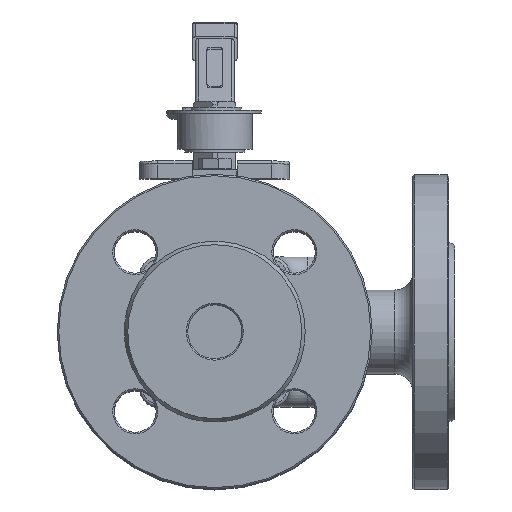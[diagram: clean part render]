
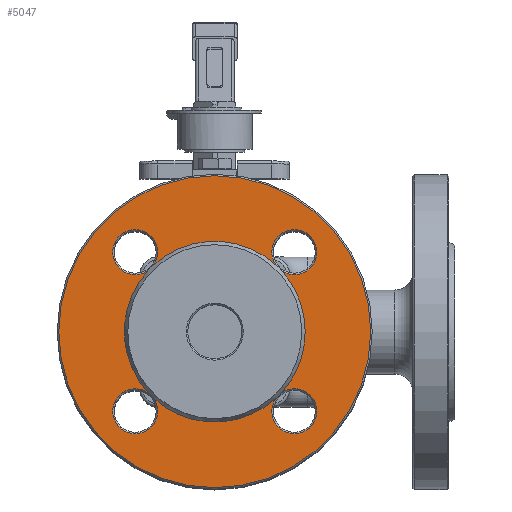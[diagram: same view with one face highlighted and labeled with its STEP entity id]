
A CAD part, top view. The second image highlights one B-rep face of the part: STEP entity #5047.
In plain terms, the highlighted planar face has unit normal (0, 0, 1).
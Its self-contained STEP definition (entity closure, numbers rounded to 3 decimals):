
#5047=ADVANCED_FACE('',(#14047,#14049),#14051,.T.);
#14047=FACE_BOUND('',#14048,.T.);
#14048=EDGE_LOOP('',(#18622));
#14049=FACE_BOUND('',#14050,.T.);
#14050=EDGE_LOOP('',(#18623,#18624,#18625,#18626,#18627,#18628,#18629,#18630,#18631,
#18632,#18633,#18634,#18635));
#14051=PLANE('',#14052);
#14052=AXIS2_PLACEMENT_3D('',#14053,#14054,#14055);
#14053=CARTESIAN_POINT('',(0.,0.,78.));
#14054=DIRECTION('',(0.,0.,1.));
#14055=DIRECTION('',(1.,0.,0.));
#18622=ORIENTED_EDGE('',*,*,#21252,.F.);
#18623=ORIENTED_EDGE('',*,*,#21223,.F.);
#18624=ORIENTED_EDGE('',*,*,#21256,.F.);
#18625=ORIENTED_EDGE('',*,*,#21212,.F.);
#18626=ORIENTED_EDGE('',*,*,#21214,.F.);
#18627=ORIENTED_EDGE('',*,*,#21255,.F.);
#18628=ORIENTED_EDGE('',*,*,#21215,.F.);
#18629=ORIENTED_EDGE('',*,*,#21217,.F.);
#18630=ORIENTED_EDGE('',*,*,#21254,.F.);
#18631=ORIENTED_EDGE('',*,*,#21218,.F.);
#18632=ORIENTED_EDGE('',*,*,#21220,.F.);
#18633=ORIENTED_EDGE('',*,*,#21253,.F.);
#18634=ORIENTED_EDGE('',*,*,#21257,.F.);
#18635=ORIENTED_EDGE('',*,*,#21221,.F.);
#21212=EDGE_CURVE('',#24747,#24748,#24749,.T.);
#21214=EDGE_CURVE('',#24750,#24747,#24752,.T.);
#21215=EDGE_CURVE('',#24753,#24754,#24755,.T.);
#21217=EDGE_CURVE('',#24756,#24753,#24758,.T.);
#21218=EDGE_CURVE('',#24759,#24760,#24761,.T.);
#21220=EDGE_CURVE('',#24762,#24759,#24764,.T.);
#21221=EDGE_CURVE('',#24765,#24766,#24767,.T.);
#21223=EDGE_CURVE('',#24768,#24765,#24770,.T.);
#21252=EDGE_CURVE('',#24827,#24827,#24828,.T.);
#21253=EDGE_CURVE('',#24829,#24762,#24830,.T.);
#21254=EDGE_CURVE('',#24760,#24756,#24831,.T.);
#21255=EDGE_CURVE('',#24754,#24750,#24832,.T.);
#21256=EDGE_CURVE('',#24748,#24768,#24833,.T.);
#21257=EDGE_CURVE('',#24766,#24829,#24834,.T.);
#24747=VERTEX_POINT('',#43845);
#24748=VERTEX_POINT('',#43846);
#24749=CIRCLE('',#43847,7.5);
#24750=VERTEX_POINT('',#43851);
#24752=CIRCLE('',#43916,7.5);
#24753=VERTEX_POINT('',#43920);
#24754=VERTEX_POINT('',#43921);
#24755=CIRCLE('',#43922,7.5);
#24756=VERTEX_POINT('',#43926);
#24758=CIRCLE('',#43991,7.5);
#24759=VERTEX_POINT('',#43995);
#24760=VERTEX_POINT('',#43996);
#24761=CIRCLE('',#43997,7.5);
#24762=VERTEX_POINT('',#44001);
#24764=CIRCLE('',#44066,7.5);
#24765=VERTEX_POINT('',#44070);
#24766=VERTEX_POINT('',#44071);
#24767=CIRCLE('',#44072,7.5);
#24768=VERTEX_POINT('',#44076);
#24770=CIRCLE('',#44141,7.5);
#24827=VERTEX_POINT('',#44765);
#24828=CIRCLE('',#44766,52.);
#24829=VERTEX_POINT('',#44770);
#24830=CIRCLE('',#44771,30.155);
#24831=CIRCLE('',#44775,30.155);
#24832=CIRCLE('',#44779,30.155);
#24833=CIRCLE('',#44783,30.155);
#24834=CIRCLE('',#44787,30.155);
#43845=CARTESIAN_POINT('',(-19.017,-26.517,78.));
#43846=CARTESIAN_POINT('',(-20.34,-22.262,78.));
#43847=AXIS2_PLACEMENT_3D('',#43848,#43849,#43850);
#43848=CARTESIAN_POINT('',(-26.517,-26.517,78.));
#43849=DIRECTION('',(0.,0.,1.));
#43850=DIRECTION('',(1.,0.,0.));
#43851=CARTESIAN_POINT('',(-22.262,-20.34,78.));
#43916=AXIS2_PLACEMENT_3D('',#43917,#43918,#43919);
#43917=CARTESIAN_POINT('',(-26.517,-26.517,78.));
#43918=DIRECTION('',(0.,0.,1.));
#43919=DIRECTION('',(0.567,0.823,0.));
#43920=CARTESIAN_POINT('',(-19.017,26.517,78.));
#43921=CARTESIAN_POINT('',(-22.262,20.34,78.));
#43922=AXIS2_PLACEMENT_3D('',#43923,#43924,#43925);
#43923=CARTESIAN_POINT('',(-26.517,26.517,78.));
#43924=DIRECTION('',(0.,0.,1.));
#43925=DIRECTION('',(1.,0.,0.));
#43926=CARTESIAN_POINT('',(-20.34,22.262,78.));
#43991=AXIS2_PLACEMENT_3D('',#43992,#43993,#43994);
#43992=CARTESIAN_POINT('',(-26.517,26.517,78.));
#43993=DIRECTION('',(0.,0.,1.));
#43994=DIRECTION('',(0.823,-0.567,0.));
#43995=CARTESIAN_POINT('',(34.017,26.517,78.));
#43996=CARTESIAN_POINT('',(20.34,22.262,78.));
#43997=AXIS2_PLACEMENT_3D('',#43998,#43999,#44000);
#43998=CARTESIAN_POINT('',(26.517,26.517,78.));
#43999=DIRECTION('',(0.,0.,1.));
#44000=DIRECTION('',(1.,0.,0.));
#44001=CARTESIAN_POINT('',(22.262,20.34,78.));
#44066=AXIS2_PLACEMENT_3D('',#44067,#44068,#44069);
#44067=CARTESIAN_POINT('',(26.517,26.517,78.));
#44068=DIRECTION('',(0.,0.,1.));
#44069=DIRECTION('',(-0.567,-0.823,0.));
#44070=CARTESIAN_POINT('',(34.017,-26.517,78.));
#44071=CARTESIAN_POINT('',(22.262,-20.34,78.));
#44072=AXIS2_PLACEMENT_3D('',#44073,#44074,#44075);
#44073=CARTESIAN_POINT('',(26.517,-26.517,78.));
#44074=DIRECTION('',(0.,0.,1.));
#44075=DIRECTION('',(1.,0.,0.));
#44076=CARTESIAN_POINT('',(20.34,-22.262,78.));
#44141=AXIS2_PLACEMENT_3D('',#44142,#44143,#44144);
#44142=CARTESIAN_POINT('',(26.517,-26.517,78.));
#44143=DIRECTION('',(0.,0.,1.));
#44144=DIRECTION('',(-0.823,0.567,0.));
#44765=CARTESIAN_POINT('',(52.,0.,78.));
#44766=AXIS2_PLACEMENT_3D('',#44767,#44768,#44769);
#44767=CARTESIAN_POINT('',(0.,0.,78.));
#44768=DIRECTION('',(0.,0.,-1.));
#44769=DIRECTION('',(1.,0.,0.));
#44770=CARTESIAN_POINT('',(30.155,0.,78.));
#44771=AXIS2_PLACEMENT_3D('',#44772,#44773,#44774);
#44772=CARTESIAN_POINT('',(0.,0.,78.));
#44773=DIRECTION('',(0.,0.,1.));
#44774=DIRECTION('',(1.,0.,0.));
#44775=AXIS2_PLACEMENT_3D('',#44776,#44777,#44778);
#44776=CARTESIAN_POINT('',(0.,0.,78.));
#44777=DIRECTION('',(0.,0.,1.));
#44778=DIRECTION('',(0.675,0.738,0.));
#44779=AXIS2_PLACEMENT_3D('',#44780,#44781,#44782);
#44780=CARTESIAN_POINT('',(0.,0.,78.));
#44781=DIRECTION('',(0.,0.,1.));
#44782=DIRECTION('',(-0.738,0.675,0.));
#44783=AXIS2_PLACEMENT_3D('',#44784,#44785,#44786);
#44784=CARTESIAN_POINT('',(0.,0.,78.));
#44785=DIRECTION('',(0.,0.,1.));
#44786=DIRECTION('',(-0.675,-0.738,0.));
#44787=AXIS2_PLACEMENT_3D('',#44788,#44789,#44790);
#44788=CARTESIAN_POINT('',(0.,0.,78.));
#44789=DIRECTION('',(0.,0.,1.));
#44790=DIRECTION('',(0.738,-0.675,0.));
